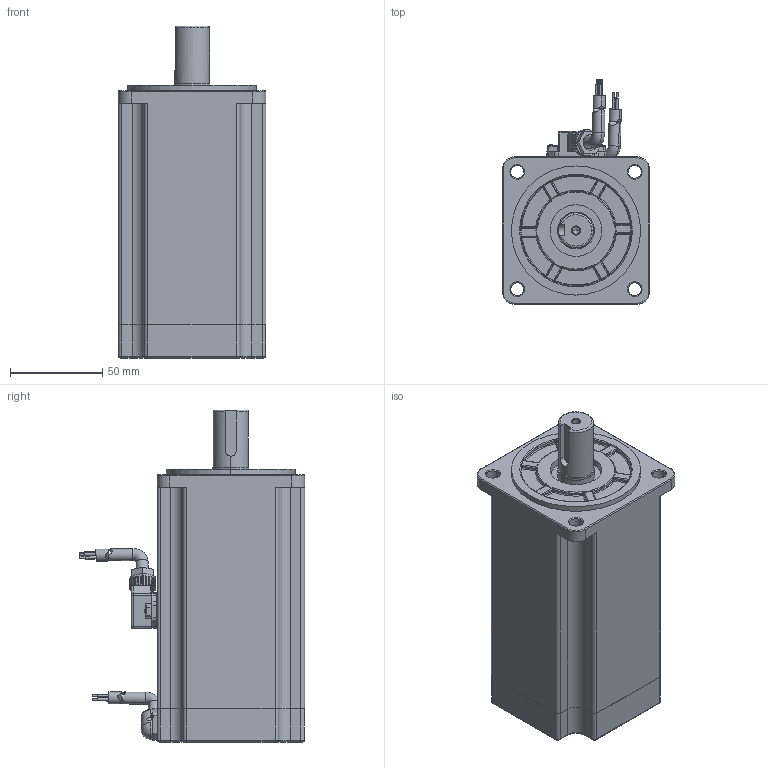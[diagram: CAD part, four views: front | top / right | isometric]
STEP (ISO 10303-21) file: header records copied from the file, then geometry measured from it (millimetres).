
FILE_DESCRIPTION (( 'STEP AP214' ), '1' );
FILE_NAME ('RSHA-M08J2430A-Z.STEP', '2021-09-27T02:07:40', ( 'User' ), ( 'Microsoft' ), 'SwSTEP 2.0', 'SolidWorks 2018', '' );
FILE_SCHEMA (( 'AUTOMOTIVE_DESIGN' ));
Length unit declared in the file: millimetre
Products named in the file (9): 1000W堤盄2漆睽.step; ______.STEP; __________.STEP; __________B.STEP; 750W________L=145mm.STEP; HN5J-106C.STEP; GB__T818-2000______________M2__5__5.STEP; RSHA-M08J2430A-Z; HN5J-106A.STEP
Assembly tree (12 placements, depth 3):
  RSHA-M08J2430A-Z
    __________.STEP
      HN5J-106C.STEP
      ______.STEP
      GB__T818-2000______________M2__5__5.STEP  x2
    __________B.STEP
      ______.STEP
      HN5J-106A.STEP
      GB__T818-2000______________M2__5__5.STEP  x2
    750W________L=145mm.STEP
    1000W堤盄2漆睽.step
Bounding box: 80 x 122.09 x 180 mm (x, y, z)
Volume: 846394.9 mm3; surface area: 67565 mm2
Topology: 10 solids, 16 shells, 966 faces, 2336 edges, 1368 vertices
Faces by surface type: cylinder 323, plane 285, bspline 169, torus 108, sphere 41, cone 40
Entity records: 36312 total; most frequent: CARTESIAN_POINT 18211, ORIENTED_EDGE 4032, DIRECTION 3274, EDGE_CURVE 2023, AXIS2_PLACEMENT_3D 1406, VERTEX_POINT 1221, EDGE_LOOP 884, FACE_OUTER_BOUND 844
